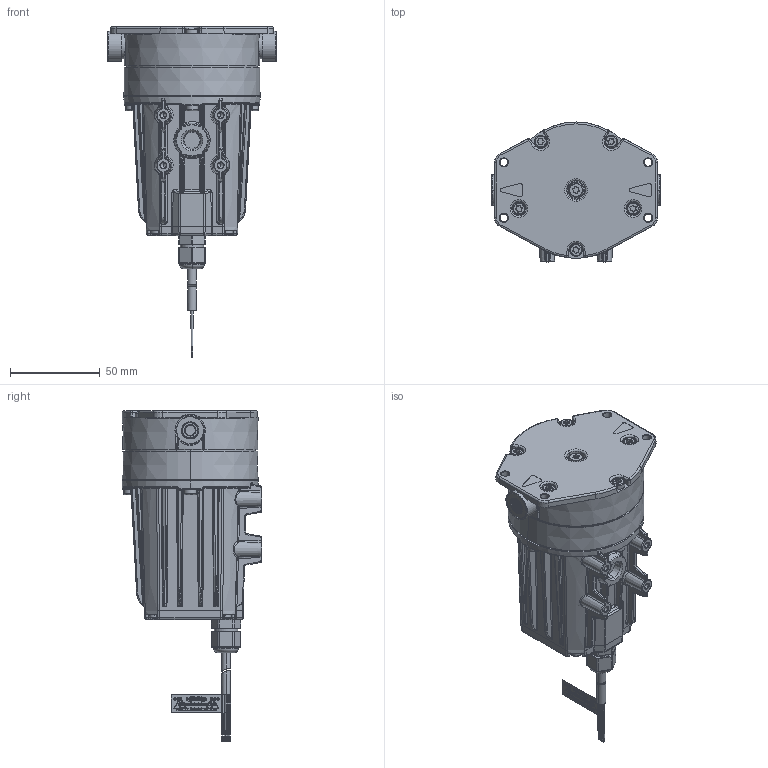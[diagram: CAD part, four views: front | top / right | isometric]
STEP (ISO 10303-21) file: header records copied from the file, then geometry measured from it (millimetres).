
FILE_DESCRIPTION((''),'2;1');
FILE_NAME('CAD1106585_SW0001','2026-02-18T08:26:10',('leon.rueegg'),('KNF Flodos AG, 6210 Sursee, Switzerland'),'CREO PARAMETRIC BY PTC INC, 2024401','CREO PARAMETRIC BY PTC INC, 2024401','');
FILE_SCHEMA(('AP242_MANAGED_MODEL_BASED_3D_ENGINEERING_MIM_LF { 1 0 10303 442 1 1 4 }'));
Length unit declared in the file: millimetre
Products named in the file (1): CAD1106585_SW0001
Bounding box: 94 x 78 x 184.6 mm (x, y, z)
Volume: 409909.4 mm3; surface area: 55188.9 mm2
Topology: 2 solids, 3 shells, 4345 faces, 11453 edges, 7224 vertices
Faces by surface type: plane 2390, cylinder 815, bspline 726, torus 195, cone 143, sphere 68, extrusion 8
Entity records: 241131 total; most frequent: CARTESIAN_POINT 108571, ORIENTED_EDGE 22786, DIRECTION 19007, EDGE_CURVE 11393, VECTOR 7381, LINE 7373, VERTEX_POINT 7224, AXIS2_PLACEMENT_3D 5813
